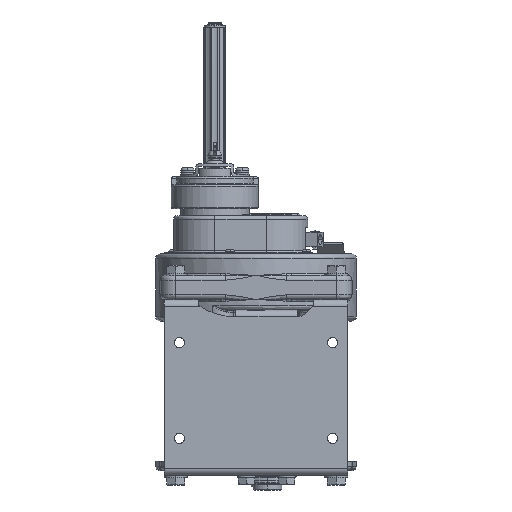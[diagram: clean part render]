
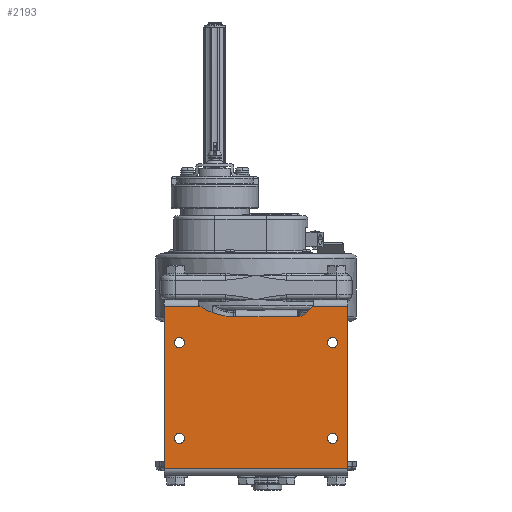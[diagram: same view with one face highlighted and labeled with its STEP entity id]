
A CAD part, front view. The second image highlights one B-rep face of the part: STEP entity #2193.
In plain terms, the highlighted planar face has unit normal (0, -1, 0).
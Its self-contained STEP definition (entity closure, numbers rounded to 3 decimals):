
#2193=ADVANCED_FACE('',(#23973,#23974,#23975,#23976,#23977),#23972,.T.);
#23972=PLANE('',#46999);
#23973=FACE_OUTER_BOUND('',#47000,.T.);
#23974=FACE_BOUND('',#47001,.T.);
#23975=FACE_BOUND('',#47002,.T.);
#23976=FACE_BOUND('',#47003,.T.);
#23977=FACE_BOUND('',#47004,.T.);
#46996=CARTESIAN_POINT('',(11.,-36.383,-212.1));
#46997=DIRECTION('',(0.,-1.,0.));
#46998=DIRECTION('',(0.,0.,1.));
#46999=AXIS2_PLACEMENT_3D('',#46996,#46997,#46998);
#47000=EDGE_LOOP('',(#64575,#64576,#64577,#64578,#64579,#64580,#64581,#64582,#64583,#64584));
#47001=EDGE_LOOP('',(#64585,#64586));
#47002=EDGE_LOOP('',(#64587,#64588));
#47003=EDGE_LOOP('',(#64589,#64590));
#47004=EDGE_LOOP('',(#64591,#64592));
#64575=ORIENTED_EDGE('',*,*,#74609,.T.);
#64576=ORIENTED_EDGE('',*,*,#69716,.T.);
#64577=ORIENTED_EDGE('',*,*,#74610,.T.);
#64578=ORIENTED_EDGE('',*,*,#69726,.T.);
#64579=ORIENTED_EDGE('',*,*,#74611,.T.);
#64580=ORIENTED_EDGE('',*,*,#74612,.T.);
#64581=ORIENTED_EDGE('',*,*,#74613,.T.);
#64582=ORIENTED_EDGE('',*,*,#74551,.F.);
#64583=ORIENTED_EDGE('',*,*,#72770,.F.);
#64584=ORIENTED_EDGE('',*,*,#74565,.T.);
#64585=ORIENTED_EDGE('',*,*,#74614,.F.);
#64586=ORIENTED_EDGE('',*,*,#74615,.F.);
#64587=ORIENTED_EDGE('',*,*,#74616,.F.);
#64588=ORIENTED_EDGE('',*,*,#74617,.F.);
#64589=ORIENTED_EDGE('',*,*,#74618,.F.);
#64590=ORIENTED_EDGE('',*,*,#74619,.F.);
#64591=ORIENTED_EDGE('',*,*,#74620,.F.);
#64592=ORIENTED_EDGE('',*,*,#74621,.F.);
#69716=EDGE_CURVE('',#83488,#83481,#83489,.T.);
#69726=EDGE_CURVE('',#83509,#83551,#83558,.T.);
#72770=EDGE_CURVE('',#103920,#103921,#103922,.T.);
#74551=EDGE_CURVE('',#103921,#115742,#115743,.T.);
#74565=EDGE_CURVE('',#103920,#115827,#115834,.T.);
#74609=EDGE_CURVE('',#115827,#83488,#116120,.T.);
#74610=EDGE_CURVE('',#83481,#83509,#116126,.T.);
#74611=EDGE_CURVE('',#83551,#116132,#116133,.T.);
#74612=EDGE_CURVE('',#116132,#116139,#116140,.T.);
#74613=EDGE_CURVE('',#116139,#115742,#116146,.T.);
#74614=EDGE_CURVE('',#116152,#116153,#116154,.T.);
#74615=EDGE_CURVE('',#116153,#116152,#116160,.T.);
#74616=EDGE_CURVE('',#116166,#116167,#116168,.T.);
#74617=EDGE_CURVE('',#116167,#116166,#116174,.T.);
#74618=EDGE_CURVE('',#116180,#116181,#116182,.T.);
#74619=EDGE_CURVE('',#116181,#116180,#116188,.T.);
#74620=EDGE_CURVE('',#116194,#116195,#116196,.T.);
#74621=EDGE_CURVE('',#116195,#116194,#116202,.T.);
#83481=VERTEX_POINT('',#129744);
#83488=VERTEX_POINT('',#129748);
#83489=CIRCLE('',#129752,30.);
#83509=VERTEX_POINT('',#129762);
#83551=VERTEX_POINT('',#129801);
#83558=LINE('',#129818,#129819);
#103920=VERTEX_POINT('',#144730);
#103921=VERTEX_POINT('',#144731);
#103922=LINE('',#144732,#144733);
#115742=VERTEX_POINT('',#151704);
#115743=LINE('',#151705,#151706);
#115827=VERTEX_POINT('',#151754);
#115834=LINE('',#151759,#151760);
#116120=LINE('',#151946,#151947);
#116126=CIRCLE('',#151952,2.);
#116132=VERTEX_POINT('',#151953);
#116133=CIRCLE('',#151957,2.);
#116139=VERTEX_POINT('',#151958);
#116140=CIRCLE('',#151962,70.);
#116146=LINE('',#151963,#151964);
#116152=VERTEX_POINT('',#151966);
#116153=VERTEX_POINT('',#151967);
#116154=CIRCLE('',#151971,5.25);
#116160=CIRCLE('',#151975,5.25);
#116166=VERTEX_POINT('',#151976);
#116167=VERTEX_POINT('',#151977);
#116168=CIRCLE('',#151981,5.25);
#116174=CIRCLE('',#151985,5.25);
#116180=VERTEX_POINT('',#151986);
#116181=VERTEX_POINT('',#151987);
#116182=CIRCLE('',#151991,5.25);
#116188=CIRCLE('',#151995,5.25);
#116194=VERTEX_POINT('',#151996);
#116195=VERTEX_POINT('',#151997);
#116196=CIRCLE('',#152001,5.25);
#116202=CIRCLE('',#152005,5.25);
#129744=CARTESIAN_POINT('',(-49.234,-36.383,-43.247));
#129748=CARTESIAN_POINT('',(-35.917,-36.383,-32.4));
#129749=CARTESIAN_POINT('',(-60.73,-36.383,-15.537));
#129750=DIRECTION('',(0.,1.,0.));
#129751=DIRECTION('',(0.,0.,-1.));
#129752=AXIS2_PLACEMENT_3D('',#129749,#129750,#129751);
#129762=CARTESIAN_POINT('',(-50.,-36.383,-43.4));
#129801=CARTESIAN_POINT('',(-118.,-36.383,-43.4));
#129818=CARTESIAN_POINT('',(-50.,-36.383,-43.4));
#129819=VECTOR('',#129820,68.);
#129820=DIRECTION('',(-1.,0.,0.));
#144730=CARTESIAN_POINT('',(1.,-36.383,-202.1));
#144731=CARTESIAN_POINT('',(-191.,-36.383,-202.1));
#144732=CARTESIAN_POINT('',(1.,-36.383,-202.1));
#144733=VECTOR('',#144734,192.);
#144734=DIRECTION('',(-1.,0.,0.));
#151704=CARTESIAN_POINT('',(-191.,-36.383,-32.4));
#151705=CARTESIAN_POINT('',(-191.,-36.383,-202.1));
#151706=VECTOR('',#151707,169.7);
#151707=DIRECTION('',(0.,0.,1.));
#151754=CARTESIAN_POINT('',(1.,-36.383,-32.4));
#151759=CARTESIAN_POINT('',(1.,-36.383,-202.1));
#151760=VECTOR('',#151761,169.7);
#151761=DIRECTION('',(0.,0.,1.));
#151946=CARTESIAN_POINT('',(1.,-36.383,-32.4));
#151947=VECTOR('',#151948,36.917);
#151948=DIRECTION('',(-1.,0.,0.));
#151949=CARTESIAN_POINT('',(-50.,-36.383,-41.4));
#151950=DIRECTION('',(0.,1.,0.));
#151951=DIRECTION('',(0.,0.,-1.));
#151952=AXIS2_PLACEMENT_3D('',#151949,#151950,#151951);
#151953=CARTESIAN_POINT('',(-118.063,-36.383,-43.399));
#151954=CARTESIAN_POINT('',(-118.,-36.383,-41.4));
#151955=DIRECTION('',(0.,1.,0.));
#151956=DIRECTION('',(0.,0.,-1.));
#151957=AXIS2_PLACEMENT_3D('',#151954,#151955,#151956);
#151958=CARTESIAN_POINT('',(-153.59,-36.383,-32.4));
#151959=CARTESIAN_POINT('',(-115.868,-36.383,26.567));
#151960=DIRECTION('',(0.,1.,0.));
#151961=DIRECTION('',(0.,0.,-1.));
#151962=AXIS2_PLACEMENT_3D('',#151959,#151960,#151961);
#151963=CARTESIAN_POINT('',(-153.59,-36.383,-32.4));
#151964=VECTOR('',#151965,37.41);
#151965=DIRECTION('',(-1.,0.,0.));
#151966=CARTESIAN_POINT('',(-15.,-36.383,-75.65));
#151967=CARTESIAN_POINT('',(-15.,-36.383,-65.15));
#151968=CARTESIAN_POINT('',(-15.,-36.383,-70.4));
#151969=DIRECTION('',(0.,-1.,0.));
#151970=DIRECTION('',(0.,0.,1.));
#151971=AXIS2_PLACEMENT_3D('',#151968,#151969,#151970);
#151972=CARTESIAN_POINT('',(-15.,-36.383,-70.4));
#151973=DIRECTION('',(0.,-1.,0.));
#151974=DIRECTION('',(0.,0.,1.));
#151975=AXIS2_PLACEMENT_3D('',#151972,#151973,#151974);
#151976=CARTESIAN_POINT('',(-175.,-36.383,-75.65));
#151977=CARTESIAN_POINT('',(-175.,-36.383,-65.15));
#151978=CARTESIAN_POINT('',(-175.,-36.383,-70.4));
#151979=DIRECTION('',(0.,-1.,0.));
#151980=DIRECTION('',(0.,0.,1.));
#151981=AXIS2_PLACEMENT_3D('',#151978,#151979,#151980);
#151982=CARTESIAN_POINT('',(-175.,-36.383,-70.4));
#151983=DIRECTION('',(0.,-1.,0.));
#151984=DIRECTION('',(0.,0.,1.));
#151985=AXIS2_PLACEMENT_3D('',#151982,#151983,#151984);
#151986=CARTESIAN_POINT('',(-175.,-36.383,-175.65));
#151987=CARTESIAN_POINT('',(-175.,-36.383,-165.15));
#151988=CARTESIAN_POINT('',(-175.,-36.383,-170.4));
#151989=DIRECTION('',(0.,-1.,0.));
#151990=DIRECTION('',(0.,0.,1.));
#151991=AXIS2_PLACEMENT_3D('',#151988,#151989,#151990);
#151992=CARTESIAN_POINT('',(-175.,-36.383,-170.4));
#151993=DIRECTION('',(0.,-1.,0.));
#151994=DIRECTION('',(0.,0.,1.));
#151995=AXIS2_PLACEMENT_3D('',#151992,#151993,#151994);
#151996=CARTESIAN_POINT('',(-15.,-36.383,-175.65));
#151997=CARTESIAN_POINT('',(-15.,-36.383,-165.15));
#151998=CARTESIAN_POINT('',(-15.,-36.383,-170.4));
#151999=DIRECTION('',(0.,-1.,0.));
#152000=DIRECTION('',(0.,0.,1.));
#152001=AXIS2_PLACEMENT_3D('',#151998,#151999,#152000);
#152002=CARTESIAN_POINT('',(-15.,-36.383,-170.4));
#152003=DIRECTION('',(0.,-1.,0.));
#152004=DIRECTION('',(0.,0.,1.));
#152005=AXIS2_PLACEMENT_3D('',#152002,#152003,#152004);
